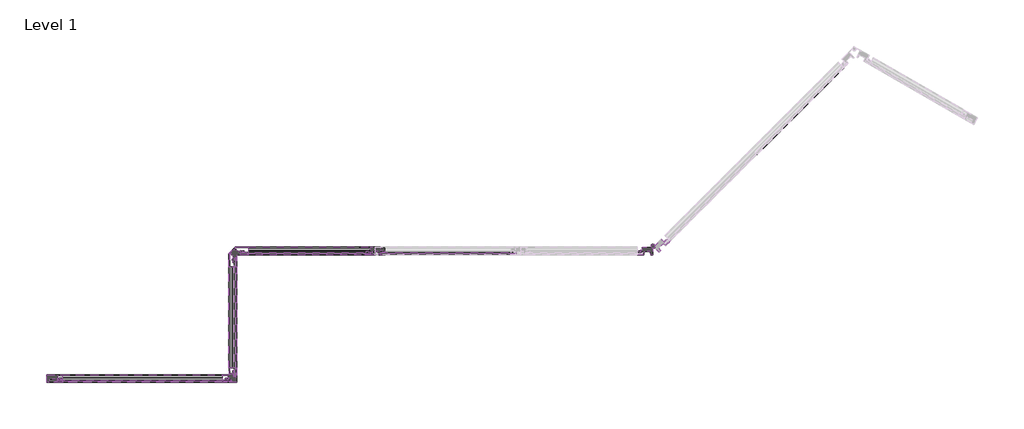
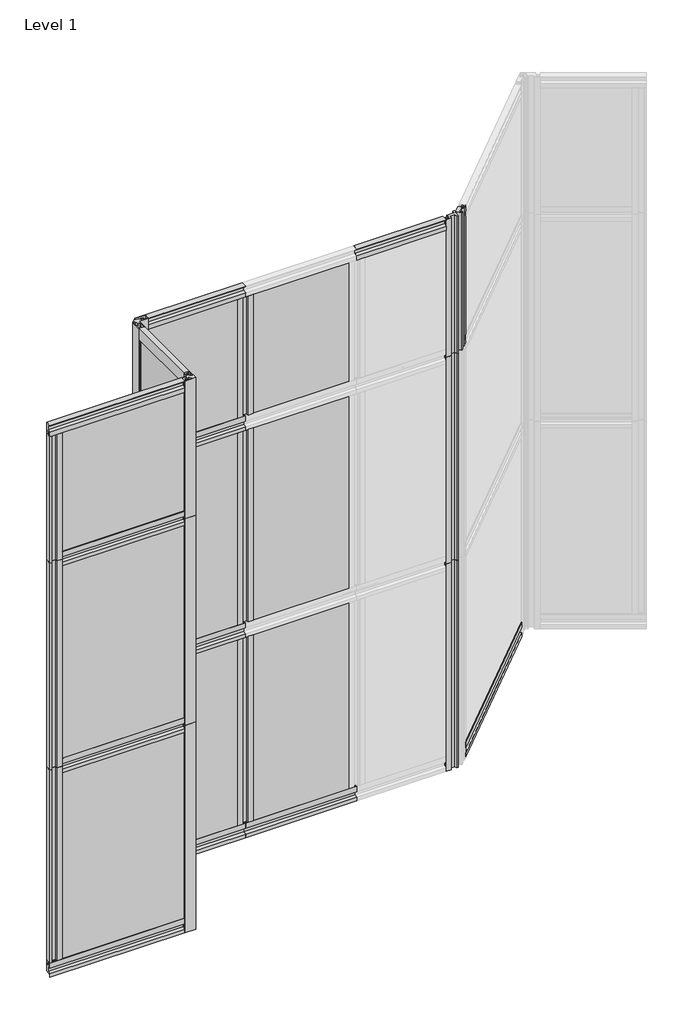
# One storey, part 1 of 2: 37 members, 12 plates.
"""IFC4 building model written with IfcOpenShell, lengths in millimetres."""

from ifc_helpers import new_model, si_unit, origin, place, context, project, spatial, transform, mapped, element, save
from components import rectangular_mullion_b117a677, rectangular_mullion_e98db40d, rectangular_mullion_f8fcbe93, rectangular_mullion_147a11e0, rectangular_mullion_c74983ad, rectangular_mullion_quickpanel_reveal_general_horizontal_aab3e2a9, rectangular_mullion_quickpanel_reveal_general_horizontal_43e5e7cb, rectangular_mullion_quickpanel_reveal_general_horizontal_b46f4490, rectangular_mullion_quickpanel_reveal_general_horizontal_74594d05, rectangular_mullion_quickpanel_reveal_general_horizontal_d0f672b7, rectangular_mullion_quickpanel_reveal_general_horizontal_5481c417, rectangular_mullion_quickpanel_reveal_general_horizontal_a96b2838, rectangular_mullion_quickpanel_reveal_general_horizontal_5eff034f, rectangular_mullion_quickpanel_reveal_inside_corner_trim_4e34491d, rectangular_mullion_quickpanel_reveal_inside_corner_trim_36ff3354, rectangular_mullion_quickpanel_reveal_inside_corner_trim_136b32a6, rectangular_mullion_quickpanel_reveal_outside_corner_trim_44ce5f77, rectangular_mullion_quickpanel_reveal_outside_corner_trim_5e5925ea, rectangular_mullion_quickpanel_reveal_outside_corner_trim_b60b09aa, rectangular_mullion_quickpanel_reveal_outside_corner_trim_eb6b40db, rectangular_mullion_quickpanel_reveal_outside_corner_trim_54773243, rectangular_mullion_quickpanel_reveal_outside_corner_trim_e17033c3, rectangular_mullion_quickpanel_reveal_soffit_termination_top_86d96742, rectangular_mullion_quickpanel_reveal_soffit_termination_top_7992bf26, rectangular_mullion_quickpanel_reveal_soffit_termination_top_08631cf9, rectangular_mullion_quickpanel_reveal_soffit_termination_top_86654360, rectangular_mullion_quickpanel_reveal_vertical_main_wall_7fc4f1b1, rectangular_mullion_quickpanel_reveal_vertical_main_wall_c7273b40, rectangular_mullion_quickpanel_reveal_vertical_termination_2aad5a0d, rectangular_mullion_quickpanel_reveal_vertical_termination_442d93d2, rectangular_mullion_quickpanel_reveal_vertical_termination_3d01a0f3, quickpanel_4mm_acm_panel_4mm_acm_1ffc63b3, quickpanel_4mm_acm_panel_4mm_acm_23777331, quickpanel_4mm_acm_panel_4mm_acm_d2320506, quickpanel_4mm_acm_panel_4mm_acm_f933fc8c, quickpanel_4mm_acm_panel_4mm_acm_5b2d26fe, quickpanel_4mm_acm_panel_4mm_acm_3d8c0663, quickpanel_4mm_acm_panel_4mm_acm_73361369, quickpanel_4mm_acm_panel_4mm_acm_184e3744, quickpanel_4mm_acm_panel_4mm_acm_177c280e, quickpanel_4mm_acm_panel_4mm_acm_775fb91e, quickpanel_4mm_acm_panel_4mm_acm_898fefb8, quickpanel_4mm_acm_panel_4mm_acm_554f1ddd

model = new_model("IFC4")

# Units and contexts
model_context = context("Model", 3, world=origin())
ifc_project = project(units=[si_unit("LENGTHUNIT", "METRE", prefix="MILLI")], contexts=[model_context])

# Site, building, storey
site = spatial("IfcSite", under=ifc_project)
building = spatial("IfcBuilding", under=site)
storey = spatial("IfcBuildingStorey", under=building, Name="Level 1", Elevation=0.0)

# Members
placement = place(None, origin())
rectangular_mullion_shape = rectangular_mullion_b117a677(model_context)
element("IfcMember", 1, ObjectType="Rectangular Mullion : QuickPanel-Reveal_Multi-Angle-Outside-Corner-Trim-Right", at=placement, inside=storey, context=model_context, shape_type="MappedRepresentation", body=[
    mapped(rectangular_mullion_shape, transform((-497.6661056, 1944.969178, 763.2962426), x_axis=(1.0, 0.0, 0.0), y_axis=(0.0, -1.0, 0.0), z_axis=(0.0, 0.0, -1.0))),
])
rectangular_mullion_2_shape = rectangular_mullion_e98db40d(model_context)
element("IfcMember", 2, ObjectType="Rectangular Mullion : QuickPanel-Reveal_Multi-Angle-Outside-Corner-Trim-Right", at=placement, inside=storey, context=model_context, shape_type="MappedRepresentation", body=[
    mapped(rectangular_mullion_2_shape, transform((-497.6661056, 1944.969178, 1525.2962426), x_axis=(1.0, 0.0, 0.0), y_axis=(0.0, -1.0, 0.0), z_axis=(0.0, 0.0, -1.0))),
])
rectangular_mullion_3_shape = rectangular_mullion_f8fcbe93(model_context)
element("IfcMember", 3, ObjectType="Rectangular Mullion : QuickPanel-Reveal_Multi-Angle-Outside-Corner-Trim-Right", at=placement, inside=storey, context=model_context, shape_type="MappedRepresentation", body=[
    mapped(rectangular_mullion_3_shape, transform((-497.6661056, 1944.969178, 0.0), x_axis=(1.0, 0.0, 0.0), y_axis=(0.0, -1.0, 0.0), z_axis=(0.0, 0.0, -1.0))),
])
rectangular_mullion_4_shape = rectangular_mullion_147a11e0(model_context)
element("IfcMember", 4, ObjectType="Rectangular Mullion : QuickPanel-Reveal_Multi-Angle-Outside-Corner-Trim-Left", at=placement, inside=storey, context=model_context, shape_type="MappedRepresentation", body=[
    mapped(rectangular_mullion_4_shape, transform((-497.1888824, 1945.1439745, 2032.0), x_axis=(-0.7071067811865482, -0.7071067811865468, 0.0), y_axis=(0.7071067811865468, -0.7071067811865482, 0.0), z_axis=(0.0, 0.0, 1.0))),
])
rectangular_mullion_5_shape = rectangular_mullion_c74983ad(model_context)
element("IfcMember", 5, ObjectType="Rectangular Mullion : QuickPanel-Reveal_Projecting-Window-Jamb-Trim-Right", at=placement, inside=storey, context=model_context, shape_type="MappedRepresentation", body=[
    mapped(rectangular_mullion_5_shape, transform((-1243.2812701, 1944.969178, 791.7293373), x_axis=(1.0, 0.0, 0.0), y_axis=(0.0, -1.0, 0.0), z_axis=(0.0, 0.0, -1.0))),
])
rectangular_mullion_quickpanel_reveal_general_horizontal_shape = rectangular_mullion_quickpanel_reveal_general_horizontal_aab3e2a9(model_context)
element("IfcMember", 6, ObjectType="Rectangular Mullion : QuickPanel-Reveal_General-Horizontal-Trim", at=placement, inside=storey, context=model_context, shape_type="MappedRepresentation", body=[
    mapped(rectangular_mullion_quickpanel_reveal_general_horizontal_shape, transform((-1625.8597137, 1900.7793134, 763.2962426), x_axis=(0.0, 0.0, 1.0), y_axis=(1.0, 0.0, 0.0), z_axis=(0.0, 1.0, 0.0))),
])
element("IfcMember", 7, ObjectType="Rectangular Mullion : QuickPanel-Reveal_General-Horizontal-Trim", at=placement, inside=storey, context=model_context, shape_type="MappedRepresentation", body=[
    mapped(rectangular_mullion_quickpanel_reveal_general_horizontal_shape, transform((-1625.8597137, 1900.7793134, 1525.2962426), x_axis=(0.0, 0.0, 1.0), y_axis=(1.0, 0.0, 0.0), z_axis=(0.0, 1.0, 0.0))),
])
rectangular_mullion_quickpanel_reveal_general_horizontal_2_shape = rectangular_mullion_quickpanel_reveal_general_horizontal_43e5e7cb(model_context)
element("IfcMember", 8, ObjectType="Rectangular Mullion : QuickPanel-Reveal_General-Horizontal-Trim", at=placement, inside=storey, context=model_context, shape_type="MappedRepresentation", body=[
    mapped(rectangular_mullion_quickpanel_reveal_general_horizontal_2_shape, transform((-464.1603732, 1978.1724837, 0.0), x_axis=(0.0, 0.0, -1.0), y_axis=(0.7071067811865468, -0.7071067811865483, 0.0), z_axis=(-0.7071067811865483, -0.7071067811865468, 0.0))),
])
rectangular_mullion_quickpanel_reveal_general_horizontal_3_shape = rectangular_mullion_quickpanel_reveal_general_horizontal_b46f4490(model_context)
element("IfcMember", 9, ObjectType="Rectangular Mullion : QuickPanel-Reveal_General-Horizontal-Trim", at=placement, inside=storey, context=model_context, shape_type="MappedRepresentation", body=[
    mapped(rectangular_mullion_quickpanel_reveal_general_horizontal_3_shape, transform((-1581.6698491, 1944.969178, 0.0), x_axis=(0.0, 0.0, -1.0), y_axis=(0.0, -1.0, 0.0), z_axis=(-1.0, 0.0, 0.0))),
])
rectangular_mullion_quickpanel_reveal_general_horizontal_4_shape = rectangular_mullion_quickpanel_reveal_general_horizontal_74594d05(model_context)
element("IfcMember", 10, ObjectType="Rectangular Mullion : QuickPanel-Reveal_General-Horizontal-Trim", at=placement, inside=storey, context=model_context, shape_type="MappedRepresentation", body=[
    mapped(rectangular_mullion_quickpanel_reveal_general_horizontal_4_shape, transform((-1243.2812701, 1944.969178, 0.0), x_axis=(0.0, 0.0, -1.0), y_axis=(0.0, -1.0, 0.0), z_axis=(-1.0, 0.0, 0.0))),
])
rectangular_mullion_quickpanel_reveal_general_horizontal_5_shape = rectangular_mullion_quickpanel_reveal_general_horizontal_d0f672b7(model_context)
element("IfcMember", 11, ObjectType="Rectangular Mullion : QuickPanel-Reveal_General-Horizontal-Trim", at=placement, inside=storey, context=model_context, shape_type="MappedRepresentation", body=[
    mapped(rectangular_mullion_quickpanel_reveal_general_horizontal_5_shape, transform((-1625.8597137, 1630.4879817, 0.0), x_axis=(0.0, 0.0, -1.0), y_axis=(1.0, 0.0, 0.0), z_axis=(0.0, -1.0, 0.0))),
])
rectangular_mullion_quickpanel_reveal_general_horizontal_6_shape = rectangular_mullion_quickpanel_reveal_general_horizontal_5481c417(model_context)
element("IfcMember", 12, ObjectType="Rectangular Mullion : QuickPanel-Reveal_General-Horizontal-Trim", at=placement, inside=storey, context=model_context, shape_type="MappedRepresentation", body=[
    mapped(rectangular_mullion_quickpanel_reveal_general_horizontal_6_shape, transform((-1652.6092631, 1603.7384323, 0.0), x_axis=(0.0, 0.0, -1.0), y_axis=(0.0, 1.0, 0.0), z_axis=(1.0, 0.0, 0.0))),
])
rectangular_mullion_quickpanel_reveal_general_horizontal_7_shape = rectangular_mullion_quickpanel_reveal_general_horizontal_a96b2838(model_context)
element("IfcMember", 13, ObjectType="Rectangular Mullion : QuickPanel-Reveal_General-Horizontal-Trim", at=placement, inside=storey, context=model_context, shape_type="MappedRepresentation", body=[
    mapped(rectangular_mullion_quickpanel_reveal_general_horizontal_7_shape, transform((-1243.2812701, 1944.969178, 763.2962426), x_axis=(0.0, 0.0, 1.0), y_axis=(0.0, -1.0, 0.0), z_axis=(1.0, 0.0, 0.0))),
])
rectangular_mullion_quickpanel_reveal_general_horizontal_8_shape = rectangular_mullion_quickpanel_reveal_general_horizontal_5eff034f(model_context)
element("IfcMember", 14, ObjectType="Rectangular Mullion : QuickPanel-Reveal_General-Horizontal-Trim", at=placement, inside=storey, context=model_context, shape_type="MappedRepresentation", body=[
    mapped(rectangular_mullion_quickpanel_reveal_general_horizontal_8_shape, transform((-2078.9781647, 1603.7384323, 763.2962426), x_axis=(0.0, 0.0, 1.0), y_axis=(0.0, 1.0, 0.0), z_axis=(-1.0, 0.0, 0.0))),
])
element("IfcMember", 15, ObjectType="Rectangular Mullion : QuickPanel-Reveal_General-Horizontal-Trim", at=placement, inside=storey, context=model_context, shape_type="MappedRepresentation", body=[
    mapped(rectangular_mullion_quickpanel_reveal_general_horizontal_8_shape, transform((-2078.9781647, 1603.7384323, 1525.2962426), x_axis=(0.0, 0.0, 1.0), y_axis=(0.0, 1.0, 0.0), z_axis=(-1.0, 0.0, 0.0))),
])
element("IfcMember", 16, ObjectType="Rectangular Mullion : QuickPanel-Reveal_General-Horizontal-Trim", at=placement, inside=storey, context=model_context, shape_type="MappedRepresentation", body=[
    mapped(rectangular_mullion_quickpanel_reveal_general_horizontal_7_shape, transform((-1243.2812701, 1944.969178, 1525.2962426), x_axis=(0.0, 0.0, 1.0), y_axis=(0.0, -1.0, 0.0), z_axis=(1.0, 0.0, 0.0))),
])
rectangular_mullion_quickpanel_reveal_inside_corner_trim_shape = rectangular_mullion_quickpanel_reveal_inside_corner_trim_4e34491d(model_context)
element("IfcMember", 17, ObjectType="Rectangular Mullion : QuickPanel-Reveal_Inside-Corner-Trim-Left", at=placement, inside=storey, context=model_context, shape_type="MappedRepresentation", body=[
    mapped(rectangular_mullion_quickpanel_reveal_inside_corner_trim_shape, transform((-1634.3985952, 1944.969178, 2032.0), x_axis=(-1.0, 0.0, 0.0), y_axis=(0.0, -1.0, 0.0), z_axis=(0.0, 0.0, 1.0))),
])
rectangular_mullion_quickpanel_reveal_inside_corner_trim_2_shape = rectangular_mullion_quickpanel_reveal_inside_corner_trim_36ff3354(model_context)
element("IfcMember", 18, ObjectType="Rectangular Mullion : QuickPanel-Reveal_Inside-Corner-Trim-Left", at=placement, inside=storey, context=model_context, shape_type="MappedRepresentation", body=[
    mapped(rectangular_mullion_quickpanel_reveal_inside_corner_trim_2_shape, transform((-1634.3985952, 1944.969178, 763.2962426), x_axis=(-1.0, 0.0, 0.0), y_axis=(0.0, -1.0, 0.0), z_axis=(0.0, 0.0, 1.0))),
])
rectangular_mullion_quickpanel_reveal_inside_corner_trim_3_shape = rectangular_mullion_quickpanel_reveal_inside_corner_trim_136b32a6(model_context)
element("IfcMember", 19, ObjectType="Rectangular Mullion : QuickPanel-Reveal_Inside-Corner-Trim-Left", at=placement, inside=storey, context=model_context, shape_type="MappedRepresentation", body=[
    mapped(rectangular_mullion_quickpanel_reveal_inside_corner_trim_3_shape, transform((-1634.3985952, 1944.969178, 1525.2962426), x_axis=(-1.0, 0.0, 0.0), y_axis=(0.0, -1.0, 0.0), z_axis=(0.0, 0.0, 1.0))),
])
element("IfcMember", 20, ObjectType="Rectangular Mullion : QuickPanel-Reveal_Inside-Corner-Trim-Right", at=placement, inside=storey, context=model_context, shape_type="MappedRepresentation", body=[
    mapped(rectangular_mullion_quickpanel_reveal_inside_corner_trim_shape, transform((-1625.8597137, 1953.5080595, 1525.2962426), x_axis=(0.0, 1.0, 0.0), y_axis=(1.0, 0.0, 0.0), z_axis=(0.0, 0.0, -1.0))),
])
element("IfcMember", 21, ObjectType="Rectangular Mullion : QuickPanel-Reveal_Inside-Corner-Trim-Right", at=placement, inside=storey, context=model_context, shape_type="MappedRepresentation", body=[
    mapped(rectangular_mullion_quickpanel_reveal_inside_corner_trim_2_shape, transform((-1625.8597137, 1953.5080595, 0.0), x_axis=(0.0, 1.0, 0.0), y_axis=(1.0, 0.0, 0.0), z_axis=(0.0, 0.0, -1.0))),
])
element("IfcMember", 22, ObjectType="Rectangular Mullion : QuickPanel-Reveal_Inside-Corner-Trim-Right", at=placement, inside=storey, context=model_context, shape_type="MappedRepresentation", body=[
    mapped(rectangular_mullion_quickpanel_reveal_inside_corner_trim_3_shape, transform((-1625.8597137, 1953.5080595, 763.2962426), x_axis=(0.0, 1.0, 0.0), y_axis=(1.0, 0.0, 0.0), z_axis=(0.0, 0.0, -1.0))),
])
rectangular_mullion_quickpanel_reveal_outside_corner_trim_shape = rectangular_mullion_quickpanel_reveal_outside_corner_trim_44ce5f77(model_context)
element("IfcMember", 23, ObjectType="Rectangular Mullion : QuickPanel-Reveal_Outside-Corner-Trim-Left", at=placement, inside=storey, context=model_context, shape_type="MappedRepresentation", body=[
    mapped(rectangular_mullion_quickpanel_reveal_outside_corner_trim_shape, transform((-1613.679341, 1603.7384323, 2032.0), x_axis=(1.0, 0.0, 0.0), y_axis=(0.0, 1.0, 0.0), z_axis=(0.0, 0.0, 1.0))),
])
rectangular_mullion_quickpanel_reveal_outside_corner_trim_2_shape = rectangular_mullion_quickpanel_reveal_outside_corner_trim_5e5925ea(model_context)
element("IfcMember", 24, ObjectType="Rectangular Mullion : QuickPanel-Reveal_Outside-Corner-Trim-Left", at=placement, inside=storey, context=model_context, shape_type="MappedRepresentation", body=[
    mapped(rectangular_mullion_quickpanel_reveal_outside_corner_trim_2_shape, transform((-1613.679341, 1603.7384323, 763.2962426), x_axis=(1.0, 0.0, 0.0), y_axis=(0.0, 1.0, 0.0), z_axis=(0.0, 0.0, 1.0))),
])
rectangular_mullion_quickpanel_reveal_outside_corner_trim_3_shape = rectangular_mullion_quickpanel_reveal_outside_corner_trim_b60b09aa(model_context)
element("IfcMember", 25, ObjectType="Rectangular Mullion : QuickPanel-Reveal_Outside-Corner-Trim-Left", at=placement, inside=storey, context=model_context, shape_type="MappedRepresentation", body=[
    mapped(rectangular_mullion_quickpanel_reveal_outside_corner_trim_3_shape, transform((-1613.679341, 1603.7384323, 1525.2962426), x_axis=(1.0, 0.0, 0.0), y_axis=(0.0, 1.0, 0.0), z_axis=(0.0, 0.0, 1.0))),
])
rectangular_mullion_quickpanel_reveal_outside_corner_trim_4_shape = rectangular_mullion_quickpanel_reveal_outside_corner_trim_eb6b40db(model_context)
element("IfcMember", 26, ObjectType="Rectangular Mullion : QuickPanel-Reveal_Outside-Corner-Trim-Left", at=placement, inside=storey, context=model_context, shape_type="MappedRepresentation", body=[
    mapped(rectangular_mullion_quickpanel_reveal_outside_corner_trim_4_shape, transform((-1625.8597137, 1591.5580595, 2032.0), x_axis=(0.0, -1.0, 0.0), y_axis=(1.0, 0.0, 0.0), z_axis=(0.0, 0.0, 1.0))),
])
rectangular_mullion_quickpanel_reveal_outside_corner_trim_5_shape = rectangular_mullion_quickpanel_reveal_outside_corner_trim_54773243(model_context)
element("IfcMember", 27, ObjectType="Rectangular Mullion : QuickPanel-Reveal_Outside-Corner-Trim-Left", at=placement, inside=storey, context=model_context, shape_type="MappedRepresentation", body=[
    mapped(rectangular_mullion_quickpanel_reveal_outside_corner_trim_5_shape, transform((-1625.8597137, 1591.5580595, 763.2962426), x_axis=(0.0, -1.0, 0.0), y_axis=(1.0, 0.0, 0.0), z_axis=(0.0, 0.0, 1.0))),
])
rectangular_mullion_quickpanel_reveal_outside_corner_trim_6_shape = rectangular_mullion_quickpanel_reveal_outside_corner_trim_e17033c3(model_context)
element("IfcMember", 28, ObjectType="Rectangular Mullion : QuickPanel-Reveal_Outside-Corner-Trim-Left", at=placement, inside=storey, context=model_context, shape_type="MappedRepresentation", body=[
    mapped(rectangular_mullion_quickpanel_reveal_outside_corner_trim_6_shape, transform((-1625.8597137, 1591.5580595, 1525.2962426), x_axis=(0.0, -1.0, 0.0), y_axis=(1.0, 0.0, 0.0), z_axis=(0.0, 0.0, 1.0))),
])
rectangular_mullion_quickpanel_reveal_soffit_termination_top_shape = rectangular_mullion_quickpanel_reveal_soffit_termination_top_86d96742(model_context)
element("IfcMember", 29, ObjectType="Rectangular Mullion : QuickPanel-Reveal_Soffit-Termination-Top", at=placement, inside=storey, context=model_context, shape_type="MappedRepresentation", body=[
    mapped(rectangular_mullion_quickpanel_reveal_soffit_termination_top_shape, transform((-544.3754712, 1944.969178, 2032.0), x_axis=(0.0, 0.0, 1.0), y_axis=(0.0, -1.0, 0.0), z_axis=(1.0, 0.0, 0.0))),
])
rectangular_mullion_quickpanel_reveal_soffit_termination_top_2_shape = rectangular_mullion_quickpanel_reveal_soffit_termination_top_7992bf26(model_context)
element("IfcMember", 30, ObjectType="Rectangular Mullion : QuickPanel-Reveal_Soffit-Termination-Top", at=placement, inside=storey, context=model_context, shape_type="MappedRepresentation", body=[
    mapped(rectangular_mullion_quickpanel_reveal_soffit_termination_top_2_shape, transform((-1243.2812701, 1944.969178, 2032.0), x_axis=(0.0, 0.0, 1.0), y_axis=(0.0, -1.0, 0.0), z_axis=(1.0, 0.0, 0.0))),
])
rectangular_mullion_quickpanel_reveal_soffit_termination_top_3_shape = rectangular_mullion_quickpanel_reveal_soffit_termination_top_08631cf9(model_context)
element("IfcMember", 31, ObjectType="Rectangular Mullion : QuickPanel-Reveal_Soffit-Termination-Top", at=placement, inside=storey, context=model_context, shape_type="MappedRepresentation", body=[
    mapped(rectangular_mullion_quickpanel_reveal_soffit_termination_top_3_shape, transform((-1625.8597137, 1900.7793134, 2032.0), x_axis=(0.0, 0.0, 1.0), y_axis=(1.0, 0.0, 0.0), z_axis=(0.0, 1.0, 0.0))),
])
rectangular_mullion_quickpanel_reveal_soffit_termination_top_4_shape = rectangular_mullion_quickpanel_reveal_soffit_termination_top_86654360(model_context)
element("IfcMember", 32, ObjectType="Rectangular Mullion : QuickPanel-Reveal_Soffit-Termination-Top", at=placement, inside=storey, context=model_context, shape_type="MappedRepresentation", body=[
    mapped(rectangular_mullion_quickpanel_reveal_soffit_termination_top_4_shape, transform((-2121.679341, 1603.7384323, 2032.0), x_axis=(0.0, 0.0, 1.0), y_axis=(0.0, 1.0, 0.0), z_axis=(-1.0, 0.0, 0.0))),
])
rectangular_mullion_quickpanel_reveal_vertical_main_wall_shape = rectangular_mullion_quickpanel_reveal_vertical_main_wall_7fc4f1b1(model_context)
element("IfcMember", 33, ObjectType="Rectangular Mullion : QuickPanel-Reveal_Vertical-Main-Wall-Trim", at=placement, inside=storey, context=model_context, shape_type="MappedRepresentation", body=[
    mapped(rectangular_mullion_quickpanel_reveal_vertical_main_wall_shape, transform((-1243.2812701, 1944.969178, 53.1926881), x_axis=(1.0, 0.0, 0.0), y_axis=(0.0, -1.0, 0.0), z_axis=(0.0, 0.0, -1.0))),
])
rectangular_mullion_quickpanel_reveal_vertical_main_wall_2_shape = rectangular_mullion_quickpanel_reveal_vertical_main_wall_c7273b40(model_context)
element("IfcMember", 34, ObjectType="Rectangular Mullion : QuickPanel-Reveal_Vertical-Main-Wall-Trim", at=placement, inside=storey, context=model_context, shape_type="MappedRepresentation", body=[
    mapped(rectangular_mullion_quickpanel_reveal_vertical_main_wall_2_shape, transform((-1243.2812701, 1944.969178, 1553.6859501), x_axis=(1.0, 0.0, 0.0), y_axis=(0.0, -1.0, 0.0), z_axis=(0.0, 0.0, -1.0))),
])
rectangular_mullion_quickpanel_reveal_vertical_termination_shape = rectangular_mullion_quickpanel_reveal_vertical_termination_2aad5a0d(model_context)
element("IfcMember", 35, ObjectType="Rectangular Mullion : QuickPanel-Reveal_Vertical-Termination-Trim-Right", at=placement, inside=storey, context=model_context, shape_type="MappedRepresentation", body=[
    mapped(rectangular_mullion_quickpanel_reveal_vertical_termination_shape, transform((-2121.679341, 1603.7384323, 1525.2962426), x_axis=(-1.0, 0.0, 0.0), y_axis=(0.0, 1.0, 0.0), z_axis=(0.0, 0.0, -1.0))),
])
rectangular_mullion_quickpanel_reveal_vertical_termination_2_shape = rectangular_mullion_quickpanel_reveal_vertical_termination_442d93d2(model_context)
element("IfcMember", 36, ObjectType="Rectangular Mullion : QuickPanel-Reveal_Vertical-Termination-Trim-Right", at=placement, inside=storey, context=model_context, shape_type="MappedRepresentation", body=[
    mapped(rectangular_mullion_quickpanel_reveal_vertical_termination_2_shape, transform((-2121.679341, 1603.7384323, 53.1926881), x_axis=(-1.0, 0.0, 0.0), y_axis=(0.0, 1.0, 0.0), z_axis=(0.0, 0.0, -1.0))),
])
rectangular_mullion_quickpanel_reveal_vertical_termination_3_shape = rectangular_mullion_quickpanel_reveal_vertical_termination_3d01a0f3(model_context)
element("IfcMember", 37, ObjectType="Rectangular Mullion : QuickPanel-Reveal_Vertical-Termination-Trim-Right", at=placement, inside=storey, context=model_context, shape_type="MappedRepresentation", body=[
    mapped(rectangular_mullion_quickpanel_reveal_vertical_termination_3_shape, transform((-2121.679341, 1603.7384323, 763.2962426), x_axis=(-1.0, 0.0, 0.0), y_axis=(0.0, 1.0, 0.0), z_axis=(0.0, 0.0, -1.0))),
])

# Plates
quickpanel_4mm_acm_panel_4mm_acm_shape = quickpanel_4mm_acm_panel_4mm_acm_1ffc63b3(model_context)
element("IfcPlate", 38, ObjectType="QuickPanel_4mm-ACM : Panel_4mm-ACM", at=placement, inside=storey, context=model_context, shape_type="MappedRepresentation", body=[
    mapped(quickpanel_4mm_acm_panel_4mm_acm_shape, transform((-1049.3741061, 1944.969178, 39.5051548), x_axis=(1.0, 0.0, 0.0), y_axis=(0.0, 1.0, 0.0), z_axis=(0.0, 0.0, 1.0))),
])
quickpanel_4mm_acm_panel_4mm_acm_2_shape = quickpanel_4mm_acm_panel_4mm_acm_23777331(model_context)
element("IfcPlate", 39, ObjectType="QuickPanel_4mm-ACM : Panel_4mm-ACM", at=placement, inside=storey, context=model_context, shape_type="MappedRepresentation", body=[
    mapped(quickpanel_4mm_acm_panel_4mm_acm_2_shape, transform((-1430.3741062, 1944.969178, 39.5051548), x_axis=(1.0, 0.0, 0.0), y_axis=(0.0, 1.0, 0.0), z_axis=(0.0, 0.0, 1.0))),
])
quickpanel_4mm_acm_panel_4mm_acm_3_shape = quickpanel_4mm_acm_panel_4mm_acm_d2320506(model_context)
element("IfcPlate", 40, ObjectType="QuickPanel_4mm-ACM : Panel_4mm-ACM", at=placement, inside=storey, context=model_context, shape_type="MappedRepresentation", body=[
    mapped(quickpanel_4mm_acm_panel_4mm_acm_3_shape, transform((-1430.3741062, 1944.969178, 1539.9984168), x_axis=(1.0, 0.0, 0.0), y_axis=(0.0, 1.0, 0.0), z_axis=(0.0, 0.0, 1.0))),
])
quickpanel_4mm_acm_panel_4mm_acm_4_shape = quickpanel_4mm_acm_panel_4mm_acm_f933fc8c(model_context)
element("IfcPlate", 41, ObjectType="QuickPanel_4mm-ACM : Panel_4mm-ACM", at=placement, inside=storey, context=model_context, shape_type="MappedRepresentation", body=[
    mapped(quickpanel_4mm_acm_panel_4mm_acm_4_shape, transform((-1436.3449791, 1944.969178, 777.9984168), x_axis=(1.0, 0.0, 0.0), y_axis=(0.0, 1.0, 0.0), z_axis=(0.0, 0.0, 1.0))),
])
quickpanel_4mm_acm_panel_4mm_acm_5_shape = quickpanel_4mm_acm_panel_4mm_acm_5b2d26fe(model_context)
element("IfcPlate", 42, ObjectType="QuickPanel_4mm-ACM : Panel_4mm-ACM", at=placement, inside=storey, context=model_context, shape_type="MappedRepresentation", body=[
    mapped(quickpanel_4mm_acm_panel_4mm_acm_5_shape, transform((-1049.3741061, 1944.969178, 778.0418039), x_axis=(1.0, 0.0, 0.0), y_axis=(0.0, 1.0, 0.0), z_axis=(0.0, 0.0, 1.0))),
])
quickpanel_4mm_acm_panel_4mm_acm_6_shape = quickpanel_4mm_acm_panel_4mm_acm_3d8c0663(model_context)
element("IfcPlate", 43, ObjectType="QuickPanel_4mm-ACM : Panel_4mm-ACM", at=placement, inside=storey, context=model_context, shape_type="MappedRepresentation", body=[
    mapped(quickpanel_4mm_acm_panel_4mm_acm_6_shape, transform((-1049.3741061, 1944.969178, 1539.9984168), x_axis=(1.0, 0.0, 0.0), y_axis=(0.0, 1.0, 0.0), z_axis=(0.0, 0.0, 1.0))),
])
quickpanel_4mm_acm_panel_4mm_acm_7_shape = quickpanel_4mm_acm_panel_4mm_acm_73361369(model_context)
element("IfcPlate", 44, ObjectType="QuickPanel_4mm-ACM : Panel_4mm-ACM", at=placement, inside=storey, context=model_context, shape_type="MappedRepresentation", body=[
    mapped(quickpanel_4mm_acm_panel_4mm_acm_7_shape, transform((-1860.8272081, 1603.7384323, 1539.9984168), x_axis=(-1.0, 0.0, 0.0), y_axis=(0.0, -1.0, 0.0), z_axis=(0.0, 0.0, 1.0))),
])
quickpanel_4mm_acm_panel_4mm_acm_8_shape = quickpanel_4mm_acm_panel_4mm_acm_184e3744(model_context)
element("IfcPlate", 45, ObjectType="QuickPanel_4mm-ACM : Panel_4mm-ACM", at=placement, inside=storey, context=model_context, shape_type="MappedRepresentation", body=[
    mapped(quickpanel_4mm_acm_panel_4mm_acm_8_shape, transform((-1860.8272081, 1603.7384323, 39.5051548), x_axis=(-1.0, 0.0, 0.0), y_axis=(0.0, -1.0, 0.0), z_axis=(0.0, 0.0, 1.0))),
])
quickpanel_4mm_acm_panel_4mm_acm_9_shape = quickpanel_4mm_acm_panel_4mm_acm_177c280e(model_context)
element("IfcPlate", 46, ObjectType="QuickPanel_4mm-ACM : Panel_4mm-ACM", at=placement, inside=storey, context=model_context, shape_type="MappedRepresentation", body=[
    mapped(quickpanel_4mm_acm_panel_4mm_acm_9_shape, transform((-1860.8272081, 1603.7384323, 777.9984168), x_axis=(-1.0, 0.0, 0.0), y_axis=(0.0, -1.0, 0.0), z_axis=(0.0, 0.0, 1.0))),
])
quickpanel_4mm_acm_panel_4mm_acm_10_shape = quickpanel_4mm_acm_panel_4mm_acm_775fb91e(model_context)
element("IfcPlate", 47, ObjectType="QuickPanel_4mm-ACM : Panel_4mm-ACM", at=placement, inside=storey, context=model_context, shape_type="MappedRepresentation", body=[
    mapped(quickpanel_4mm_acm_panel_4mm_acm_10_shape, transform((-1625.8597137, 1765.273691, 1539.9984168), x_axis=(0.0, 1.0, 0.0), y_axis=(-1.0, 0.0, 0.0), z_axis=(0.0, 0.0, 1.0))),
])
quickpanel_4mm_acm_panel_4mm_acm_11_shape = quickpanel_4mm_acm_panel_4mm_acm_898fefb8(model_context)
element("IfcPlate", 48, ObjectType="QuickPanel_4mm-ACM : Panel_4mm-ACM", at=placement, inside=storey, context=model_context, shape_type="MappedRepresentation", body=[
    mapped(quickpanel_4mm_acm_panel_4mm_acm_11_shape, transform((-1625.8597137, 1765.273691, 39.5051548), x_axis=(0.0, 1.0, 0.0), y_axis=(-1.0, 0.0, 0.0), z_axis=(0.0, 0.0, 1.0))),
])
quickpanel_4mm_acm_panel_4mm_acm_12_shape = quickpanel_4mm_acm_panel_4mm_acm_554f1ddd(model_context)
element("IfcPlate", 49, ObjectType="QuickPanel_4mm-ACM : Panel_4mm-ACM", at=placement, inside=storey, context=model_context, shape_type="MappedRepresentation", body=[
    mapped(quickpanel_4mm_acm_panel_4mm_acm_12_shape, transform((-1625.8597137, 1765.273691, 777.9984168), x_axis=(0.0, 1.0, 0.0), y_axis=(-1.0, 0.0, 0.0), z_axis=(0.0, 0.0, 1.0))),
])

save(model, "model.ifc")
